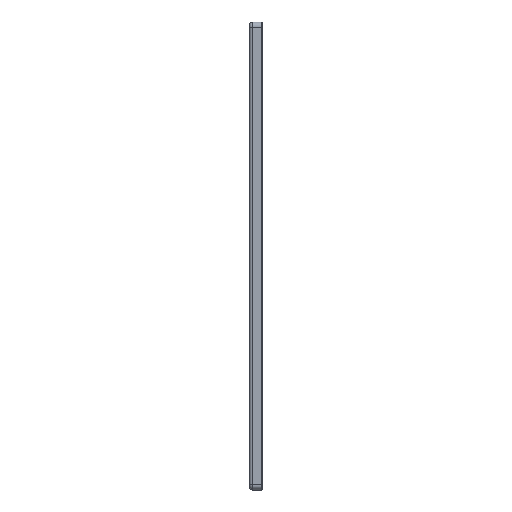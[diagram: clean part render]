
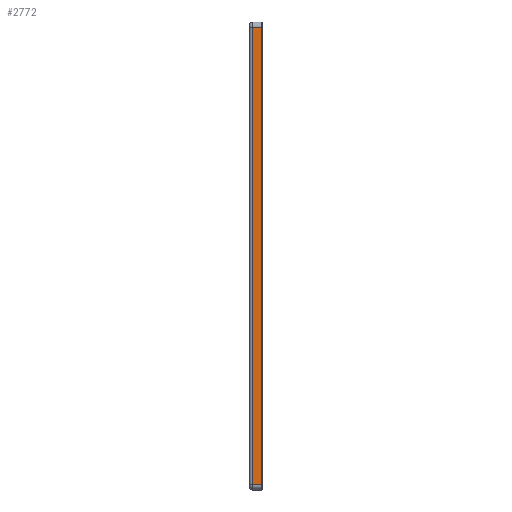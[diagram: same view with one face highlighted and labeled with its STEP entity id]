
A CAD part, left-side view. The second image highlights one B-rep face of the part: STEP entity #2772.
In plain terms, the highlighted planar face has unit normal (-1, 0, 0).
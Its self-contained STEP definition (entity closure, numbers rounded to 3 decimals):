
#408 = CARTESIAN_POINT ( 'NONE',  ( -225., 10., 220. ) ) ;
#418 = CARTESIAN_POINT ( 'NONE',  ( -225., 10., -220. ) ) ;
#1003 = CARTESIAN_POINT ( 'NONE',  ( -225., 1., -220. ) ) ;
#1015 = CARTESIAN_POINT ( 'NONE',  ( -225., 1., 220. ) ) ;
#1891 = EDGE_LOOP ( 'NONE', ( #2637, #2638, #2636, #2639 ) ) ;
#2636 = ORIENTED_EDGE ( 'NONE', *, *, #9878, .T. ) ;
#2637 = ORIENTED_EDGE ( 'NONE', *, *, #9879, .T. ) ;
#2638 = ORIENTED_EDGE ( 'NONE', *, *, #9896, .T. ) ;
#2639 = ORIENTED_EDGE ( 'NONE', *, *, #9882, .T. ) ;
#2772 = ADVANCED_FACE ( 'NONE', ( #10312 ), #3401, .F. ) ;
#3399 = CARTESIAN_POINT ( 'NONE',  ( -225., 13., 225. ) ) ;
#3401 = PLANE ( 'NONE',  #5417 ) ;
#3402 = DIRECTION ( 'NONE',  ( 1., 0., 0. ) ) ;
#3403 = DIRECTION ( 'NONE',  ( 0., 0., -1. ) ) ;
#5417 = AXIS2_PLACEMENT_3D ( 'NONE', #3399, #3402, #3403 ) ;
#8493 = LINE ( 'NONE', #9302, #8798 ) ;
#8780 = LINE ( 'NONE', #9286, #8800 ) ;
#8798 = VECTOR ( 'NONE', #9290, 1000. ) ;
#8800 = VECTOR ( 'NONE', #9301, 1000. ) ;
#8804 = LINE ( 'NONE', #9297, #8812 ) ;
#8812 = VECTOR ( 'NONE', #9310, 1000. ) ;
#8834 = LINE ( 'NONE', #9333, #8848 ) ;
#8848 = VECTOR ( 'NONE', #9346, 1000. ) ;
#9286 = CARTESIAN_POINT ( 'NONE',  ( -225., 13., 220. ) ) ;
#9290 = DIRECTION ( 'NONE',  ( 0., -1., 0. ) ) ;
#9297 = CARTESIAN_POINT ( 'NONE',  ( -225., 10., 225. ) ) ;
#9301 = DIRECTION ( 'NONE',  ( 0., 1., 0. ) ) ;
#9302 = CARTESIAN_POINT ( 'NONE',  ( -225., 13., -220. ) ) ;
#9310 = DIRECTION ( 'NONE',  ( 0., 0., -1. ) ) ;
#9333 = CARTESIAN_POINT ( 'NONE',  ( -225., 1., 225. ) ) ;
#9346 = DIRECTION ( 'NONE',  ( 0., 0., 1. ) ) ;
#9878 = EDGE_CURVE ( 'NONE', #11755, #11577, #8780, .T. ) ;
#9879 = EDGE_CURVE ( 'NONE', #11575, #11611, #8493, .T. ) ;
#9882 = EDGE_CURVE ( 'NONE', #11577, #11575, #8804, .T. ) ;
#9896 = EDGE_CURVE ( 'NONE', #11611, #11755, #8834, .T. ) ;
#10312 = FACE_OUTER_BOUND ( 'NONE', #1891, .T. ) ;
#11575 = VERTEX_POINT ( 'NONE', #418 ) ;
#11577 = VERTEX_POINT ( 'NONE', #408 ) ;
#11611 = VERTEX_POINT ( 'NONE', #1003 ) ;
#11755 = VERTEX_POINT ( 'NONE', #1015 ) ;
